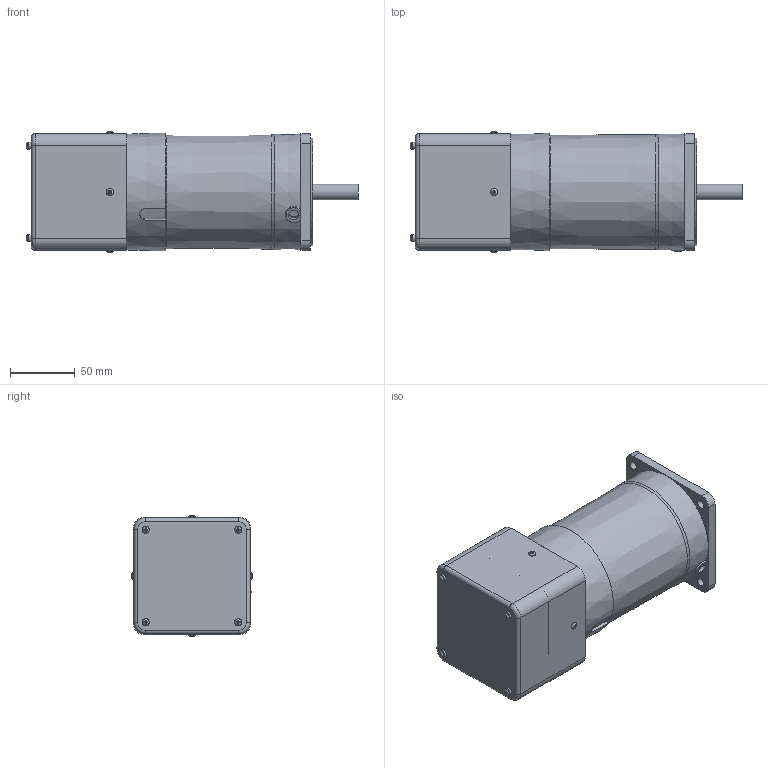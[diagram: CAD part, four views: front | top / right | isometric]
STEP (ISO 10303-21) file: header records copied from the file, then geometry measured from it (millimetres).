
FILE_DESCRIPTION((''),'2;1');
FILE_NAME('D:\김성묵\업무폴더\개발 파일\프로젝트 개발 AB등급\AC표준형 개발자료\90각 이하 표준형 개발\도면작성 자료\3D 도면\홈페이지용 3D 파일\90W MOTOR\ES TYPE\S9R90S-ES.stp','2015-03-31T10:38:04',('smkim'),(''),'Autodesk Inventor 2012','Autodesk Inventor 2012','');
FILE_SCHEMA(('AUTOMOTIVE_DESIGN { 1 0 10303 214 1 1 1 1 }'));
Length unit declared in the file: millimetre
Products named in the file (1): 부품20
Bounding box: 256.25 x 93.89 x 93.89 mm (x, y, z)
Volume: 1221310.5 mm3; surface area: 117453.5 mm2
Topology: 1 solids, 7 shells, 291 faces, 695 edges, 448 vertices
Faces by surface type: plane 177, cylinder 72, torus 26, cone 8, bspline 8
Full cylindrical faces by diameter (mm): 3 x8, 4.5 x4, 5.6 x12, 6.5 x4, 8 x1, 9.5 x4, 10 x1, 12 x1, 40 x1, 83 x1, 86 x1
Entity records: 8790 total; most frequent: CARTESIAN_POINT 2277, DIRECTION 1250, ORIENTED_EDGE 1216, EDGE_CURVE 608, AXIS2_PLACEMENT_3D 462, VERTEX_POINT 433, EDGE_LOOP 409, VECTOR 326
